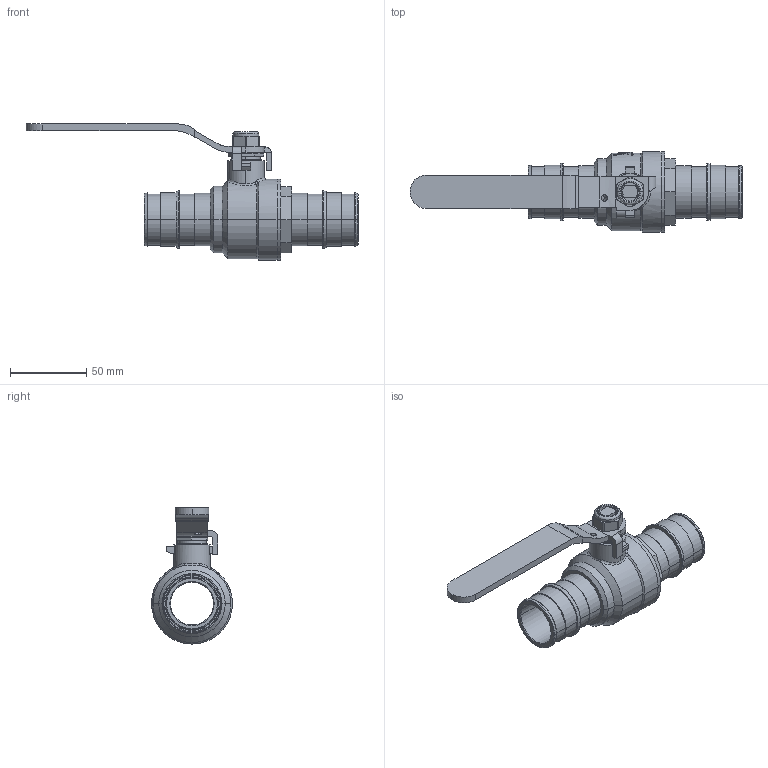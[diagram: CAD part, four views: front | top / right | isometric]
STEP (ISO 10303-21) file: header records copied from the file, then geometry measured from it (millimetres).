
FILE_DESCRIPTION(('Open CASCADE Model'),'2;1');
FILE_NAME('Open CASCADE Shape Model','2021-11-23T09:31:02',('Author'),( 'Open CASCADE'),'Open CASCADE STEP processor 7.3','Open CASCADE 7.3' ,'Unknown');
FILE_SCHEMA(('AUTOMOTIVE_DESIGN { 1 0 10303 214 1 1 1 1 }'));
Length unit declared in the file: millimetre
Products named in the file (12): Open CASCADE STEP translator 7.3 1; Open CASCADE STEP translator 7.3 1.1; Open CASCADE STEP translator 7.3 1.2; Open CASCADE STEP translator 7.3 1.3; Open CASCADE STEP translator 7.3 1.4; Open CASCADE STEP translator 7.3 1.5; Open CASCADE STEP translator 7.3 1.6; Open CASCADE STEP translator 7.3 1.7; Open CASCADE STEP translator 7.3 1.8; Open CASCADE STEP translator 7.3 1.9; Open CASCADE STEP translator 7.3 1.10; Open CASCADE STEP translator 7.3 1.11
Assembly tree (11 placements, depth 2):
  Open CASCADE STEP translator 7.3 1
    Open CASCADE STEP translator 7.3 1.1
    Open CASCADE STEP translator 7.3 1.2
    Open CASCADE STEP translator 7.3 1.3
    Open CASCADE STEP translator 7.3 1.4
    Open CASCADE STEP translator 7.3 1.5
    Open CASCADE STEP translator 7.3 1.6
    Open CASCADE STEP translator 7.3 1.7
    Open CASCADE STEP translator 7.3 1.8
    Open CASCADE STEP translator 7.3 1.9
    Open CASCADE STEP translator 7.3 1.10
    Open CASCADE STEP translator 7.3 1.11
Bounding box: 217.26 x 53 x 89.1 mm (x, y, z)
Volume: 109070.9 mm3; surface area: 69394 mm2
Topology: 11 solids, 11 shells, 606 faces, 1550 edges, 1003 vertices
Faces by surface type: cylinder 189, plane 164, bspline 125, cone 84, torus 36, sphere 6, revolution 2
Entity records: 100176 total; most frequent: CARTESIAN_POINT 72552, DIRECTION 4121, ORIENTED_EDGE 3096, PCURVE 3096, DEFINITIONAL_REPRESENTATION 3096, LINE 2085, VECTOR 2085, B_SPLINE_CURVE_WITH_KNOTS 1617
